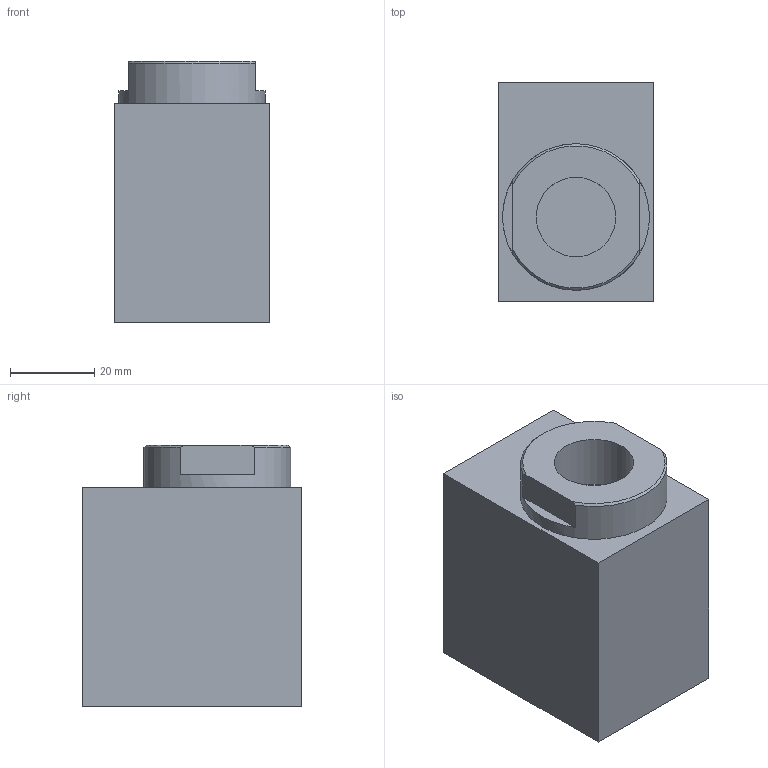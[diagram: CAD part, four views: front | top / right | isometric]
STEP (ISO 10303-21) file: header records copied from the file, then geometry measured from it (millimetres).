
FILE_DESCRIPTION(/* description */ ('SCARICO RAPIDO 1/2"'),/* implementation_level */ '2;1');
FILE_NAME(/* name */ 'I:\Area Tecnica\Disegni\VARIE-3D\Componenti\600\6_02_XX\6_02_12.stp',/* time_stamp */ '2017-01-20T13:58:34+01:00',/* author */ ('maniean1'),/* organization */ ('Pneumax S.p.A.'),/* preprocessor_version */ 'ST-DEVELOPER v15.2',/* originating_system */ 'Autodesk Inventor 2014',/* authorisation */ '');
FILE_SCHEMA (('AUTOMOTIVE_DESIGN { 1 0 10303 214 3 1 1 }'));
Length unit declared in the file: millimetre
Products named in the file (1): 6_02_12
Bounding box: 37 x 52 x 62 mm (x, y, z)
Volume: 98208 mm3; surface area: 16478.9 mm2
Topology: 1 solids, 1 shells, 20 faces, 42 edges, 28 vertices
Faces by surface type: plane 14, cylinder 4, cone 2
Full cylindrical faces by diameter (mm): 18.9 x3, 34.8 x1
Entity records: 571 total; most frequent: CARTESIAN_POINT 93, DIRECTION 88, ORIENTED_EDGE 74, EDGE_CURVE 37, AXIS2_PLACEMENT_3D 34, EDGE_LOOP 28, VERTEX_POINT 27, STYLED_ITEM 21
